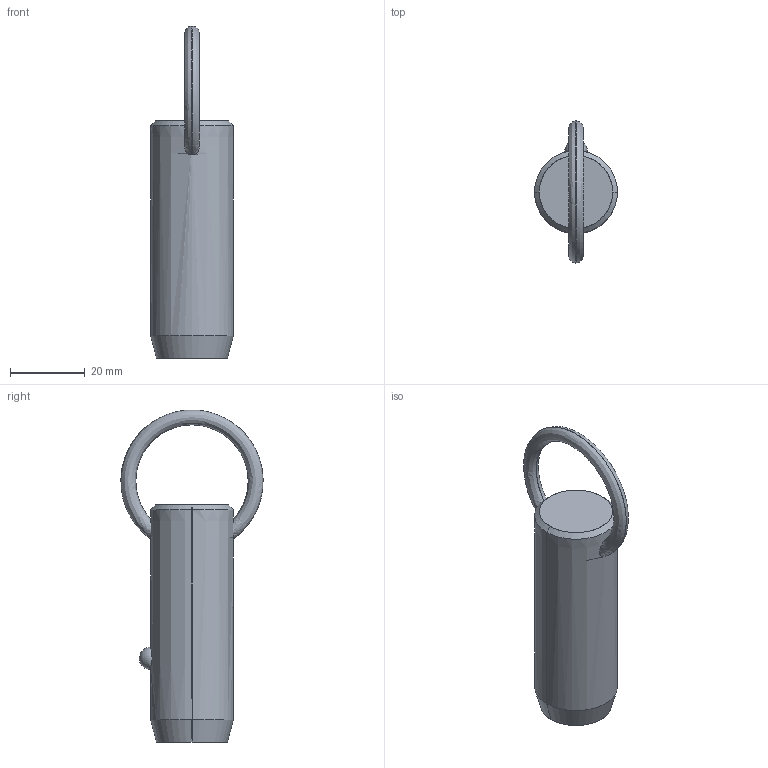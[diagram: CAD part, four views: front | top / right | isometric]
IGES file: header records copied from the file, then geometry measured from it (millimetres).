
Start section: SolidWorks IGES file using analytic representation for surfaces
Global section: file name: C:\Users\liam_\OneDrive\Documents\WORK\Work for WixRoyd\Job Files\J-00019 - Matt Davis CAD Checking\04. CAD Drawings\automotion20190605\P1250.2_v2\P1250.2_v2_20190729_IGES\P1250.087-100.igs; native system: SolidWorks 2017; preprocessor: SolidWorks 2017; author: liam_; date: 190730.000357; units: millimetre
Bounding box: 22.2 x 38.09 x 88.89 mm (x, y, z)
Surface area: 6072.5 mm2 (no closed solid volume)
Topology: 0 solids, 0 shells, 12 faces, 302 edges, 300 vertices
Faces by surface type: revolution 8, bspline 4
